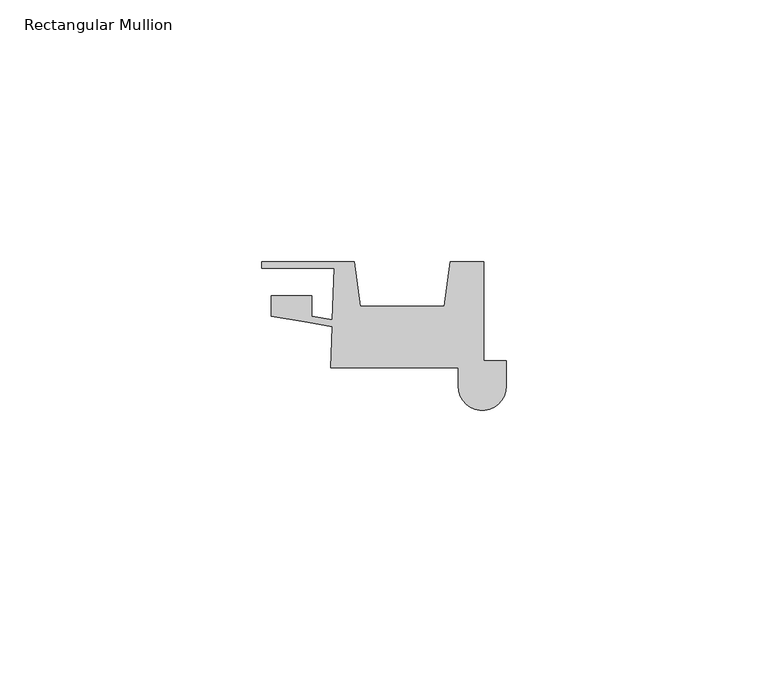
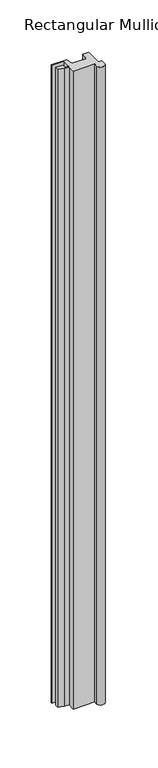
"""IFC4 building model written with IfcOpenShell, lengths in millimetres: member geometry, Rectangular Mullion : QuickPanel-Reveal_Multi-Angle-Outside-Corner-Trim-Left."""

from ifc_helpers import new_model, si_unit, point, frame, frame_2d, origin, place, context, project, spatial, polyline, circle_curve, trimmed, segment, composite_curve, outline, extrude, source, transform, mapped, element, save


def rectangular_mullion_dcde6910(model_context):
    return source(origin(), model_context, "Body", "SweptSolid", [
        extrude(outline(composite_curve([segment(polyline([(-33.5174141, -8.095605), (-33.2416678, -0.1992641), (-38.4919487, 0.7008023), (-44.9272813, 1.8040245), (-44.9272813, 5.6493034), (-37.1825082, 5.6493034), (-37.1825082, 1.7648465), (-33.1969393, 1.0815922), (-32.8530122, 10.9303752), (-46.7093657, 10.9303752), (-46.7093657, 12.1803727), (-29.060393, 12.1803727), (-27.8716753, 3.7222065), (-11.8585488, 3.7222065), (-10.6698311, 12.1803727), (-4.2600515, 12.1803727), (-4.2600515, -6.6995181), (0.0, -6.6995181), (0.0, -11.6334034)]), True, "CONTINUOUS"), segment(trimmed(circle_curve(frame_2d((-4.572, -11.6334034)), 4.572), [point((0.0, -11.6334034))], [point((-9.144, -11.6334034))], False, "CARTESIAN"), True, "CONTINUOUS"), segment(polyline([(-9.144, -11.6334034), (-9.144, -8.095605), (-33.5174141, -8.095605)]), True, "CONTINUOUS")], self_intersect=False)), frame((0.0, 0.0, -763.4314025), z_axis=(0.0, 0.0, 1.0), x_axis=(1.0, 0.0, 0.0)), (0.0, 0.0, 1.0), 763.4314025),
    ])


if __name__ == "__main__":
    model = new_model("IFC4")
    model_context = context("Model", 3, world=origin())
    ifc_project = project(units=[si_unit("LENGTHUNIT", "METRE", prefix="MILLI")], contexts=[model_context])
    site = spatial("IfcSite", under=ifc_project)
    building = spatial("IfcBuilding", under=site)
    placement = place(None, origin())
    rectangular_mullion_shape = rectangular_mullion_dcde6910(model_context)
    element("IfcMember", 1, ObjectType="Rectangular Mullion : QuickPanel-Reveal_Multi-Angle-Outside-Corner-Trim-Left", at=placement, inside=building, context=model_context, shape_type="MappedRepresentation", body=[
        mapped(rectangular_mullion_shape, transform((0.0, 0.0, 0.0), x_axis=(1.0, 0.0, 0.0), y_axis=(0.0, 1.0, 0.0), z_axis=(0.0, 0.0, 1.0))),
    ])
    save(model, "model.ifc")
